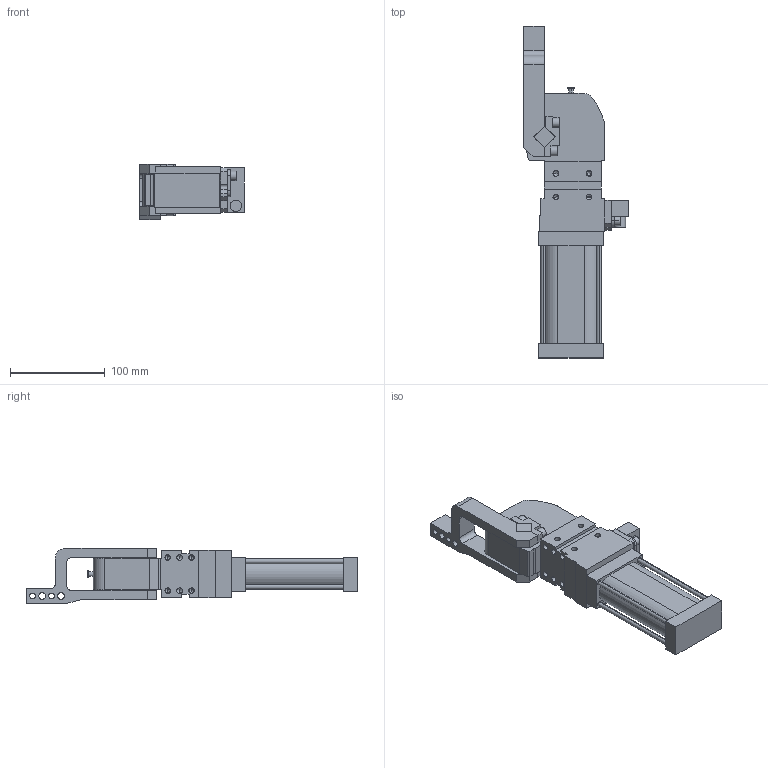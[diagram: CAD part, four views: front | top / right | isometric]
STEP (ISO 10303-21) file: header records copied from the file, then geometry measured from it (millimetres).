
FILE_DESCRIPTION (( 'STEP AP214' ), '1' );
FILE_NAME ('cpl40h2di1g_108.STEP', '2021-05-25T10:42:52', ( '' ), ( '' ), 'SwSTEP 2.0', 'SolidWorks 2021', '' );
FILE_SCHEMA (( 'AUTOMOTIVE_DESIGN' ));
Length unit declared in the file: millimetre
Products named in the file (5): blocchetto_VEP_0_cpl40; meccanica_cpl40; cpl40h2di1g_108; leva_v2s_cpl40; piastra_blocchetto_cpl40
Assembly tree (4 placements, depth 2):
  cpl40h2di1g_108
    meccanica_cpl40
    blocchetto_VEP_0_cpl40
    piastra_blocchetto_cpl40
    leva_v2s_cpl40
Bounding box: 110.5 x 350 x 58 mm (x, y, z)
Volume: 766996.9 mm3; surface area: 116235.2 mm2
Topology: 5 solids, 5 shells, 403 faces, 1025 edges, 639 vertices
Faces by surface type: plane 214, cylinder 141, cone 48
Entity records: 13408 total; most frequent: DIRECTION 2111, CARTESIAN_POINT 2028, ORIENTED_EDGE 1958, EDGE_CURVE 979, AXIS2_PLACEMENT_3D 722, VECTOR 667, LINE 667, VERTEX_POINT 639
